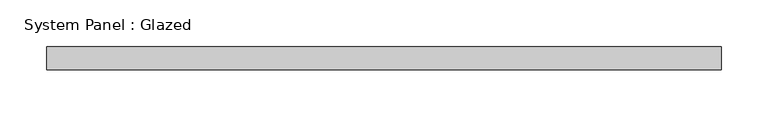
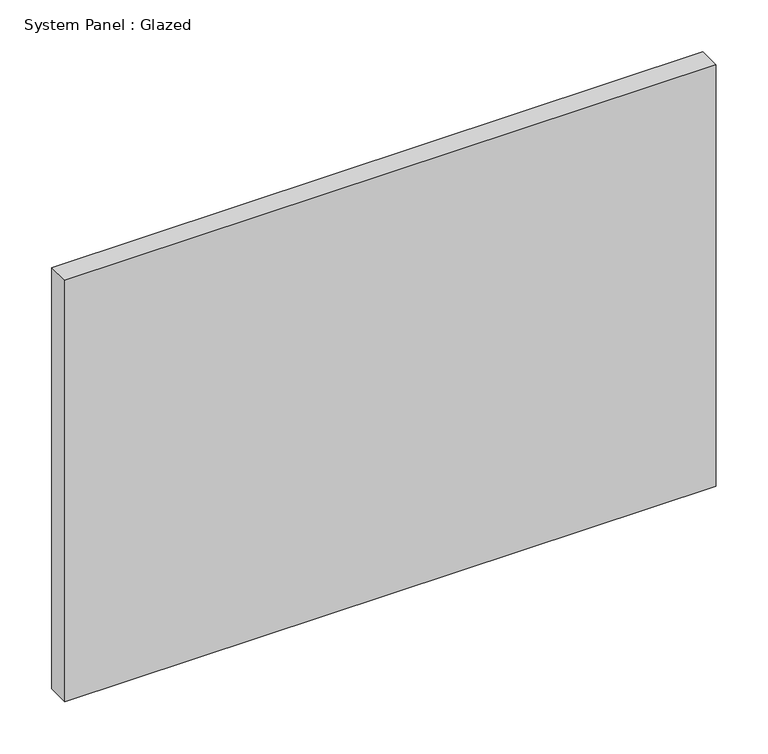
"""IFC4 building model written with IfcOpenShell, lengths in millimetres: plate geometry, System Panel : Glazed."""

from ifc_helpers import new_model, si_unit, origin, origin_with_axes, place, context, project, spatial, polyline, outline, extrude, source, transform, mapped, element, save


def system_panel_glazed_deddf482(model_context):
    return source(origin(), model_context, "Body", "SweptSolid", [
        extrude(outline(polyline([(361.875, -12.5), (-361.875, -12.5), (-361.875, 12.5), (361.875, 12.5), (361.875, -12.5)])), origin_with_axes(), (0.0, 0.0, 1.0), 495.0),
    ])


if __name__ == "__main__":
    model = new_model("IFC4")
    model_context = context("Model", 3, world=origin())
    ifc_project = project(units=[si_unit("LENGTHUNIT", "METRE", prefix="MILLI")], contexts=[model_context])
    site = spatial("IfcSite", under=ifc_project)
    building = spatial("IfcBuilding", under=site)
    placement = place(None, origin())
    system_panel_glazed_shape = system_panel_glazed_deddf482(model_context)
    element("IfcPlate", 1, ObjectType="System Panel : Glazed", at=placement, inside=building, context=model_context, shape_type="MappedRepresentation", body=[
        mapped(system_panel_glazed_shape, transform((0.0, 0.0, 0.0), x_axis=(1.0, 0.0, 0.0), y_axis=(0.0, 1.0, 0.0), z_axis=(0.0, 0.0, 1.0))),
    ])
    save(model, "model.ifc")
